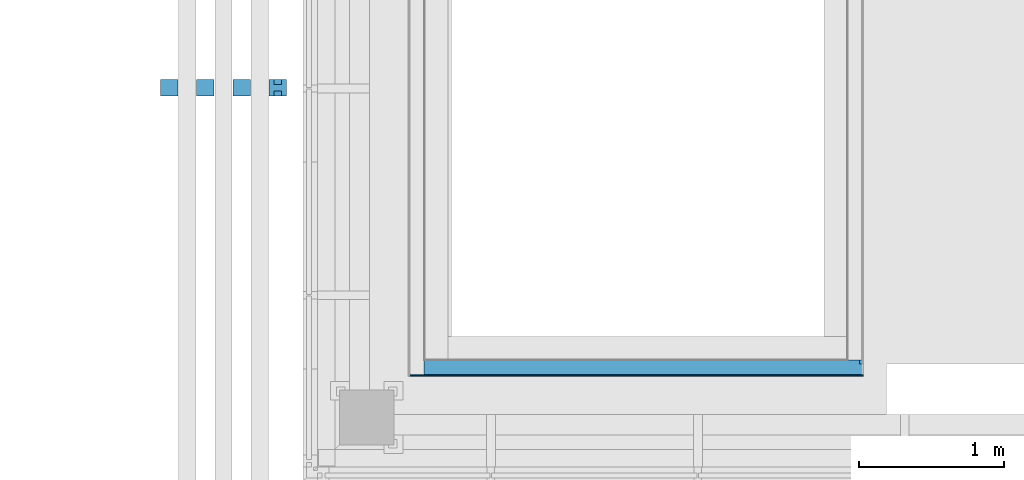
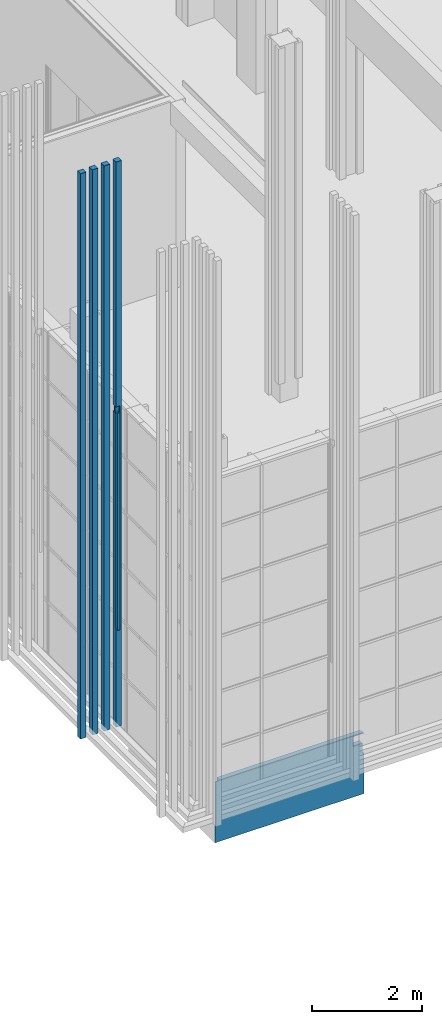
# One storey, part 127 of 260: 3 discrete accessories, 2 building element parts, 1 element without a shape of its own.
"""IFC2X3 building model written with IfcOpenShell, lengths in millimetres."""

from ifc_helpers import new_model, entity, si_unit, converted_unit, derived_unit, money_unit, direction, frame, origin_with_axes, place, context, subcontext, project, spatial, faceted_brep, material, material_list, type_object, element, aggregate, save


model = new_model("IFC2X3")

# Units and contexts
model_context = context("Model", 3, precision=0.01, world=origin_with_axes(), true_north=direction((0.0, 1.0)))
body_context = subcontext(model_context, "Body", "Model", "MODEL_VIEW")
ifc_project = project(units=[si_unit("LENGTHUNIT", "METRE", prefix="MILLI"), si_unit("AREAUNIT", "SQUARE_METRE"), si_unit("VOLUMEUNIT", "CUBIC_METRE"), converted_unit("PLANEANGLEUNIT", "DEGREE", entity("IfcPlaneAngleMeasure", 0.0174532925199), si_unit("PLANEANGLEUNIT", "RADIAN"), dimensions=[0, 0, 0, 0, 0, 0, 0]), money_unit("EUR"), converted_unit("TIMEUNIT", "Year", entity("IfcTimeMeasure", 31556926.0), si_unit("TIMEUNIT", "SECOND"), dimensions=[0, 0, 1, 0, 0, 0, 0]), si_unit("MASSUNIT", "GRAM", prefix="KILO"), si_unit("THERMODYNAMICTEMPERATUREUNIT", "DEGREE_CELSIUS"), si_unit("LUMINOUSINTENSITYUNIT", "LUMEN"), si_unit("ENERGYUNIT", "JOULE", prefix="MEGA"), derived_unit("THERMALCONDUCTANCEUNIT", [(si_unit("POWERUNIT", "WATT"), 1), (si_unit("LENGTHUNIT", "METRE"), -1), (si_unit("THERMODYNAMICTEMPERATUREUNIT", "KELVIN"), -1)]), derived_unit("SPECIFICHEATCAPACITYUNIT", [(si_unit("ENERGYUNIT", "JOULE"), 1), (si_unit("MASSUNIT", "GRAM", prefix="KILO"), -1), (si_unit("THERMODYNAMICTEMPERATUREUNIT", "KELVIN"), -1)]), derived_unit("MASSDENSITYUNIT", [(si_unit("MASSUNIT", "GRAM", prefix="KILO"), 1), (si_unit("VOLUMEUNIT", "CUBIC_METRE"), -1)])], contexts=[model_context])

# Site, building, storey
site_placement = place(None, origin_with_axes())
site = spatial("IfcSite", under=ifc_project, at=site_placement, Name="Kolde pst 67a", CompositionType="ELEMENT")
building_placement = place(site_placement, origin_with_axes())
building = spatial("IfcBuilding", under=site, at=building_placement, Name="Riigigümnaasium", CompositionType="ELEMENT")
storey_placement = place(building_placement, origin_with_axes())
storey = spatial("IfcBuildingStorey", under=building, at=storey_placement, Name="1. korrus", CompositionType="ELEMENT", Elevation=0.0)

# Discrete accessories
ifc_material_1 = material(Name="_VÄLISVIIMISTLUS - sõrmjätkatud puitprussid 120x115mm, liitekohad vähemärgatavad, Platowood sõrmjätkatud kuusk või samaväärne; eeltöödeldud tuletõkkevõõbaga, tuletundlikkus B-s1, d0, Woodsafe Exterior WFX™ või samaväärne; kinnitused vastavalt EK osale")
ifc_material_list = material_list([ifc_material_1, ifc_material_1, ifc_material_1, ifc_material_1])
discrete_accessory_type_1 = type_object("IfcDiscreteAccessoryType", Name="120 4-ne vertikaalne 870 x 115")
discrete_accessory_1_placement = place(storey_placement, frame((23687.9939029, 26523.0020662, 280.0), z_axis=(0.0, 0.0, 1.0), x_axis=(0.999999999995, 3.13999128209e-06, 0.0)))
element("IfcDiscreteAccessory", 1, at=discrete_accessory_1_placement, inside=storey, type_object=discrete_accessory_type_1, material=ifc_material_list, Name="Päikesevarjestus", context=body_context, shape_type="Brep", body=[
    faceted_brep([(-97.9910130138, -69.9999685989, 6990.0), (-97.9909031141, -34.9999685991, 6990.0), (-47.9909031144, -35.0001255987, 6990.0), (-47.9997359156, -33.0017858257, 6990.0), (-133.0, -33.0017858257, 6990.0), (-133.0, -70.0, 6990.0), (-97.9910130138, -69.9999685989, 2146.5), (-97.9909031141, -34.9999685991, 2146.5), (-47.9909031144, -35.0001255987, 2146.5), (-47.9910130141, -70.0001255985, 6990.0), (-47.9997359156, -70.0, 7140.0), (-47.9997359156, -33.0017858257, 7140.0), (-133.0, -33.0017858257, 7140.0), (-133.0, -70.0, 7140.0), (-133.0, -70.0, 12600.0), (-133.0, 45.0, 12600.0), (-133.0, 45.0, 7140.0), (-133.0, 10.0002669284, 7140.0), (-133.0, 10.0002669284, 6990.0), (-133.0, 45.0, 6990.0), (-133.0, 45.0, 0.0), (-133.0, -70.0, 0.0), (-13.0, -70.0, 0.0), (-13.0, -70.0, 12600.0), (-47.9910130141, -70.0001255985, 2146.5), (-13.0, 45.0, 12600.0), (-97.9906519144, 45.0001569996, 6990.0), (-97.9906519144, 45.0001569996, 2146.5), (-47.9906519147, 45.0, 2146.5), (-47.9906519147, 45.0, 6990.0), (-47.8262264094, 45.0, 6990.0), (-47.8262264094, 45.0, 7140.0), (-13.0, 45.0, 0.0), (-47.8263363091, 9.99999948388, 7140.0), (-47.8263363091, 9.99999948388, 6990.0), (-47.9907618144, 10.0000000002, 6990.0), (-97.9907618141, 10.0001569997, 6990.0), (-97.9907618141, 10.0001569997, 2146.5), (-47.9907618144, 10.0000000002, 2146.5)], [[[0, 1, 2, 3, 4, 5]], [[1, 0, 6, 7]], [[2, 1, 7, 8]], [[2, 9, 10, 11, 3]], [[3, 11, 12, 4]], [[5, 4, 12, 13, 14, 15, 16, 17, 18, 19, 20, 21]], [[6, 0, 5, 21, 22, 23, 14, 13, 10, 9, 24]], [[6, 24, 8, 7]], [[9, 2, 8, 24]], [[12, 11, 10, 13]], [[23, 25, 15, 14]], [[26, 27, 28, 29, 30, 31, 16, 15, 25, 32, 20, 19]], [[33, 17, 16, 31]], [[34, 35, 36, 18, 17, 33]], [[18, 36, 26, 19]], [[20, 32, 22, 21]], [[32, 25, 23, 22]], [[37, 27, 26, 36]], [[38, 28, 27, 37]], [[38, 35, 29, 28]], [[30, 29, 35, 34]], [[34, 33, 31, 30]], [[37, 36, 35, 38]]]),
    faceted_brep([(-383.0, -70.0, 0.0), (-263.0, -70.0, 0.0), (-263.0, -70.0, 12600.0), (-383.0, -70.0, 12600.0), (-383.0, 45.0, 0.0), (-263.0, 45.0, 0.0), (-263.0, 45.0, 12600.0), (-383.0, 45.0, 12600.0)], [[[0, 1, 2, 3]], [[0, 4, 5, 1]], [[1, 5, 6, 2]], [[3, 2, 6, 7]], [[4, 0, 3, 7]], [[5, 4, 7, 6]]]),
    faceted_brep([(-633.0, -70.0, 0.0), (-513.0, -70.0, 0.0), (-513.0, -70.0, 12600.0), (-633.0, -70.0, 12600.0), (-633.0, 45.0, 0.0), (-513.0, 45.0, 0.0), (-513.0, 45.0, 12600.0), (-633.0, 45.0, 12600.0)], [[[0, 1, 2, 3]], [[0, 4, 5, 1]], [[1, 5, 6, 2]], [[3, 2, 6, 7]], [[4, 0, 3, 7]], [[5, 4, 7, 6]]]),
    faceted_brep([(-883.0, -70.0, 0.0), (-763.0, -70.0, 0.0), (-763.0, -70.0, 12600.0), (-883.0, -70.0, 12600.0), (-883.0, 45.0, 0.0), (-763.0, 45.0, 0.0), (-763.0, 45.0, 12600.0), (-883.0, 45.0, 12600.0)], [[[0, 1, 2, 3]], [[0, 4, 5, 1]], [[1, 5, 6, 2]], [[3, 2, 6, 7]], [[4, 0, 3, 7]], [[5, 4, 7, 6]]]),
])
ifc_material_2 = material(Name="_METALL - teras")
discrete_accessory_type_2 = type_object("IfcDiscreteAccessoryType", Name="_METALL - teras 50 x 35")
discrete_accessory_2_placement = place(storey_placement, frame((23615.0031097, 26550.5019155, 2426.5), z_axis=(0.0, 0.0, 1.0), x_axis=(-1.0, 0.0, 0.0)))
element("IfcDiscreteAccessory", 2, at=discrete_accessory_2_placement, inside=storey, type_object=discrete_accessory_type_2, material=ifc_material_2, Name="Varjestuskardina külgsiin RENSON või analoog", context=body_context, shape_type="Brep", body=[
    faceted_brep([(-25.0, -17.5, 4843.5), (-25.0, -17.5, 0.0), (25.0, -17.5, 0.0), (25.0, -17.5, 4843.5), (-25.0, 17.5, 4843.5), (-25.0, 17.5, 0.0), (25.0, 17.5, 0.0), (25.0, 17.5, 4843.5)], [[[0, 1, 2, 3]], [[4, 5, 1, 0]], [[2, 1, 5, 6]], [[3, 2, 6, 7]], [[4, 0, 3, 7]], [[7, 6, 5, 4]]]),
])
discrete_accessory_3_placement = place(storey_placement, frame((23615.0031097, 26470.5017899, 2426.5), z_axis=(0.0, 0.0, 1.0), x_axis=(1.0, 0.0, 0.0)))
element("IfcDiscreteAccessory", 3, at=discrete_accessory_3_placement, inside=storey, type_object=discrete_accessory_type_2, material=ifc_material_2, Name="Varjestuskardina külgsiin RENSON või analoog", context=body_context, shape_type="Brep", body=[
    faceted_brep([(25.0, 17.5, 4843.5), (25.0, 17.5, 0.0), (-25.0, 17.5, 0.0), (-25.0, 17.5, 4843.5), (25.0, -17.5, 4843.5), (25.0, -17.5, 0.0), (-25.0, -17.5, 0.0), (-25.0, -17.5, 4843.5)], [[[0, 1, 2, 3]], [[4, 5, 1, 0]], [[2, 1, 5, 6]], [[3, 2, 6, 7]], [[4, 0, 3, 7]], [[7, 6, 5, 4]]]),
])

# Wall, building element parts
wall_type = type_object("IfcWallType", Name="VS-RB-16/1_mullakast 273", PredefinedType="NOTDEFINED")
wall_placement = place(storey_placement, frame((24630.0567695, 24630.0, -1460.1), z_axis=(0.0, 0.0, 1.0), x_axis=(1.0, 0.0, 0.0)))
wall = element("IfcWall", 4, at=wall_placement, inside=storey, type_object=wall_type, Name="taimekast")
ifc_material_3 = material(Name="_SOOJUSTUS - vahtpolüstüreenplaadid EPS 120 Perimeeter, survetugevus min. 120kPa, veeimavus <2%, soojuserijuhtivus λD<0,036 W/(mK)")
building_element_part_1_placement = place(wall_placement, origin_with_axes())
building_element_part_1 = element("IfcBuildingElementPart", 5, at=building_element_part_1_placement, material=ifc_material_3, Name="_SOOJUSTUS - vahtpolüstüreenplaadid EPS 120 Perimeeter, survetugevus min. 120kPa, veeimavus <2%, soojuserijuhtivus λD<0,036 W/(mK)", context=body_context, shape_type="Brep", body=[
    faceted_brep([(3023.0, -30.2995373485, 1345.1), (3023.0, -30.2995373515, 1360.00001577), (3023.0, -103.0, 1360.1), (3023.0, -103.0, 1345.1), (3004.77558081, -30.2995373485, 1360.00001577), (3004.77558081, -30.2995373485, 1345.1), (3004.77558081, -3.00000001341, 1360.00001211), (-3.0, -3.0, 1360.1), (-3.0, -103.0, 1360.1), (3023.0, -103.0, 910.000028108), (3004.77558081, -103.0, 910.000026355), (3004.77558081, -102.999999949, 1130.00406013), (2804.77558081, -103.0, 1130.0), (2804.77558081, -103.0, 1345.1), (-3.0, -103.0, 0.0), (3023.0, -103.0, 0.0), (2804.77558081, -29.7296038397, 1345.1), (2804.77558081, -3.0, 1345.1), (3004.77558081, -3.0, 1345.1), (3004.77558081, -29.7296038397, 1345.1), (2804.77558081, -3.0, 1130.0), (3004.77558081, -3.00000000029, 1129.99999721), (3004.77558081, -3.0, 910.000022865), (3023.0, -3.0, 910.000026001), (3023.0, -3.0, 0.0), (2963.0, -3.0, 0.0), (2963.0, -3.0, 350.1), (-3.0, -3.0, 350.1), (-3.0, -40.0, 0.0), (-3.0, -40.0, 350.1), (3004.77558081, -29.7296038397, 1130.0), (2804.77558081, -29.7296038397, 1130.0), (2963.0, -40.0, 0.0), (2963.0, -40.0, 350.1)], [[[0, 1, 2, 3]], [[4, 1, 0, 5]], [[4, 6, 7, 8, 2, 1]], [[9, 10, 11, 12, 13, 3, 2, 8, 14, 15]], [[5, 0, 3, 13, 16, 17, 18, 19]], [[18, 6, 4, 5, 19]], [[20, 21, 22, 23, 24, 25, 26, 27, 7, 6, 18, 17]], [[28, 14, 8, 7, 27, 29]], [[10, 9, 23, 22]], [[21, 30, 11, 10, 22]], [[30, 21, 20, 31, 12, 11]], [[31, 20, 17, 16, 13, 12]], [[25, 24, 15, 14, 28, 32]], [[24, 23, 9, 15]], [[33, 26, 25, 32]], [[29, 27, 26, 33]], [[33, 32, 28, 29]]]),
])
ifc_material_4 = material(Name="_ALUSKATE - drenaaži- ja kaitsematt geotekstiiliga soojustuse kaitseks, Interplast Iso-Drain 8 Geo või samaväärne")
building_element_part_2_placement = place(wall_placement, origin_with_axes())
building_element_part_2 = element("IfcBuildingElementPart", 6, at=building_element_part_2_placement, material=ifc_material_4, Name="_ALUSKATE - drenaaži- ja kaitsematt geotekstiiliga soojustuse kaitseks, Interplast Iso-Drain 8 Geo või samaväärne", context=body_context, shape_type="Brep", body=[
    faceted_brep([(3004.77558081, -103.0, 910.000026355), (3033.0, -103.0, 910.000028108), (3033.0, -103.0, 0.0), (-103.0, -103.0, 0.0), (-103.0, -103.0, 1360.1), (3033.0, -103.0, 1360.1), (3033.0, -103.0, 1345.1), (2804.77558081, -103.0, 1345.1), (2804.77558081, -103.0, 1130.0), (3004.77558081, -102.999999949, 1130.00406013), (3033.0, -113.0, 910.000028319), (3004.77558081, -113.0, 910.000026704), (3033.0, -113.0, 0.0), (-103.0, -113.0, 0.0), (-103.0, -113.0, 1360.1), (3033.0, -113.0, 1360.1), (3033.0, -113.0, 1345.1), (2804.77558081, -113.0, 1345.1), (2804.77558081, -113.0, 1130.0), (3004.77558081, -112.999999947, 1130.0041862)], [[[0, 1, 2, 3, 4, 5, 6, 7, 8, 9]], [[10, 1, 0, 11]], [[1, 10, 12, 2]], [[2, 12, 13, 3]], [[4, 3, 13, 14]], [[15, 5, 4, 14]], [[16, 6, 5, 15]], [[16, 17, 7, 6]], [[8, 7, 17, 18]], [[18, 19, 9, 8]], [[11, 0, 9, 19]], [[11, 19, 18, 17, 16, 15, 14, 13, 12, 10]]]),
])
aggregate(wall, [building_element_part_1, building_element_part_2])

save(model, "model.ifc")
